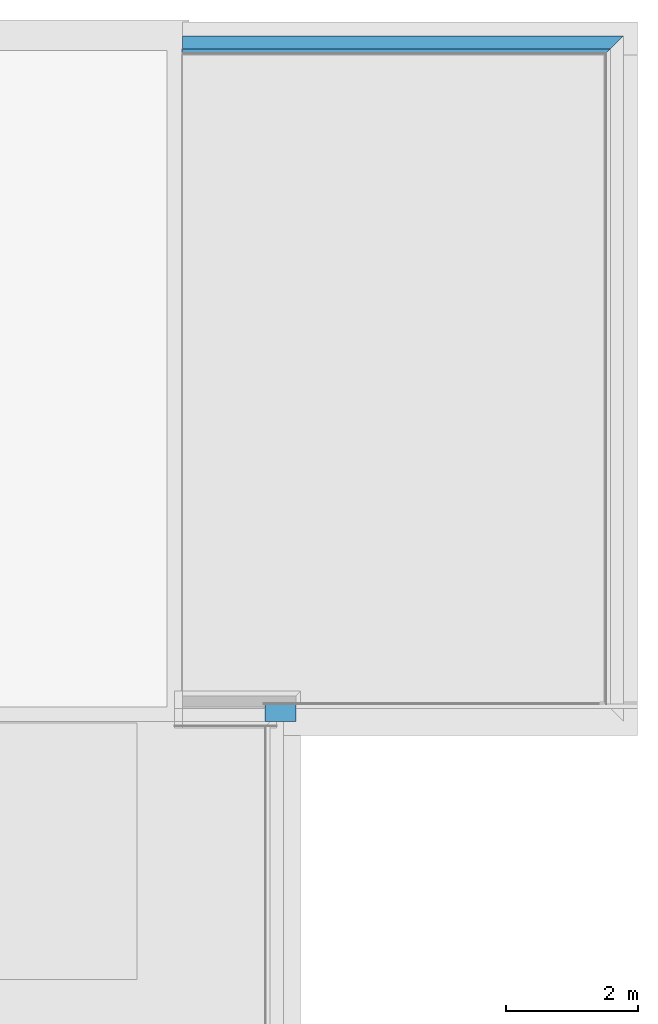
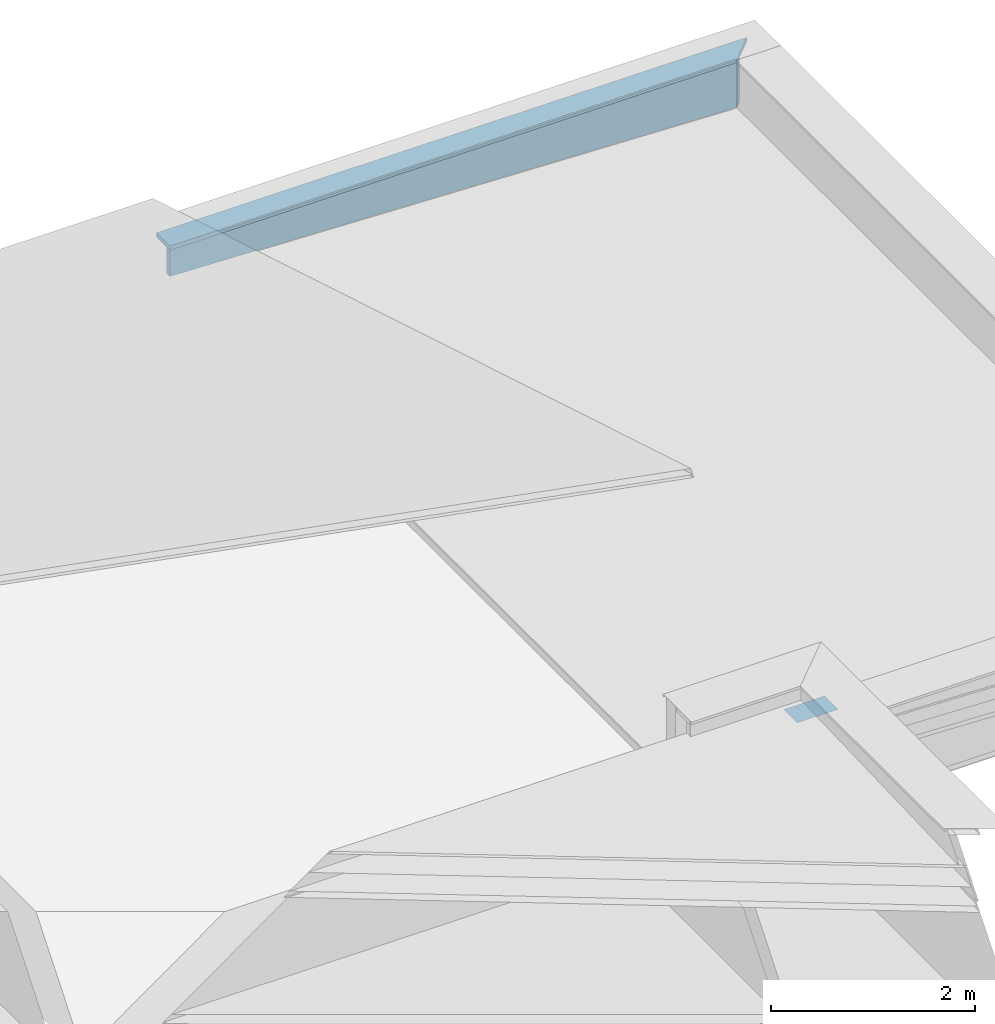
# One storey, part 13 of 13: 3 building element parts, 2 elements without a shape of their own.
"""IFC2X3 building model written with IfcOpenShell, lengths in metres."""

from ifc_helpers import new_model, entity, si_unit, converted_unit, derived_unit, money_unit, direction, frame, origin_with_axes, place, context, subcontext, project, spatial, polyline, outline, extrude, boolean, faceted_brep, material, type_object, element, aggregate, save


model = new_model("IFC2X3")

# Units and contexts
model_context = context("Model", 3, precision=1e-05, world=origin_with_axes(), true_north=direction((0.0, 1.0)))
body_context = subcontext(model_context, "Body", "Model", "MODEL_VIEW")
ifc_project = project(units=[si_unit("LENGTHUNIT", "METRE"), si_unit("AREAUNIT", "SQUARE_METRE"), si_unit("VOLUMEUNIT", "CUBIC_METRE"), converted_unit("PLANEANGLEUNIT", "DEGREE", entity("IfcPlaneAngleMeasure", 0.0174532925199), si_unit("PLANEANGLEUNIT", "RADIAN"), dimensions=[0, 0, 0, 0, 0, 0, 0]), money_unit("CHF"), converted_unit("TIMEUNIT", "Year", entity("IfcTimeMeasure", 31556926.0), si_unit("TIMEUNIT", "SECOND"), dimensions=[0, 0, 1, 0, 0, 0, 0]), si_unit("MASSUNIT", "GRAM", prefix="KILO"), si_unit("THERMODYNAMICTEMPERATUREUNIT", "DEGREE_CELSIUS"), si_unit("LUMINOUSINTENSITYUNIT", "LUMEN"), si_unit("ENERGYUNIT", "JOULE", prefix="MEGA"), derived_unit("THERMALCONDUCTANCEUNIT", [(si_unit("POWERUNIT", "WATT"), 1), (si_unit("LENGTHUNIT", "METRE"), -1), (si_unit("THERMODYNAMICTEMPERATUREUNIT", "KELVIN"), -1)]), derived_unit("SPECIFICHEATCAPACITYUNIT", [(si_unit("ENERGYUNIT", "JOULE"), 1), (si_unit("MASSUNIT", "GRAM", prefix="KILO"), -1), (si_unit("THERMODYNAMICTEMPERATUREUNIT", "KELVIN"), -1)]), derived_unit("MASSDENSITYUNIT", [(si_unit("MASSUNIT", "GRAM", prefix="KILO"), 1), (si_unit("VOLUMEUNIT", "CUBIC_METRE"), -1)])], contexts=[model_context])

# Site, building, storey
site_placement = place(None, origin_with_axes())
site = spatial("IfcSite", under=ifc_project, at=site_placement, Name="Site", CompositionType="ELEMENT")
building_placement = place(site_placement, origin_with_axes())
building = spatial("IfcBuilding", under=site, at=building_placement, Name="Bâtiment", CompositionType="ELEMENT")
storey_placement = place(building_placement, frame((0.0, 0.0, 3.0), z_axis=(0.0, 0.0, 1.0), x_axis=(1.0, 0.0, 0.0)))
storey = spatial("IfcBuildingStorey", under=building, at=storey_placement, Name="Toitures", CompositionType="ELEMENT", Elevation=3.0)

# Beam, building element parts
beam_type = type_object("IfcBeamType", Name="couvertine mur iso 505 x 590", PredefinedType="BEAM")
beam_1_placement = place(storey_placement, frame((32.3194697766, 25.2201256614, 0.97), z_axis=(0.0, 0.0, 1.0), x_axis=(0.0, -1.0, 0.0)))
beam_1 = element("IfcBeam", 1, at=beam_1_placement, inside=storey, type_object=beam_type, Name="POUTRE-001", ObjectType="BEAM")
ifc_material = material(Name="Isolation - Polyuréthane (extérieur)")
building_element_part_1_placement = place(beam_1_placement, origin_with_axes())
building_element_part_1 = element("IfcBuildingElementPart", 2, at=building_element_part_1_placement, material=ifc_material, Name="Isolation - Polyuréthane (extérieur)", context=body_context, shape_type="CSG", body=[
    boolean("DIFFERENCE", boolean("DIFFERENCE", boolean("DIFFERENCE", boolean("DIFFERENCE", boolean("DIFFERENCE", boolean("DIFFERENCE", extrude(outline(polyline([(0.0999999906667, -0.589639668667), (0.164999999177, -0.589639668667), (0.164999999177, -0.0549999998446), (0.0999999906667, -0.0549999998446), (0.0999999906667, -0.589639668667)])), frame((0.0, 6.91002, 0.0), z_axis=(0.0, -1.0, 0.0), x_axis=(1.0, 0.0, 0.0)), (0.0, 0.0, 1.0), 6.91002), faceted_brep([(0.164999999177, 0.0, -0.368167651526), (0.164999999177, 6.32777191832, -0.589639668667), (0.164999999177, 0.0, -0.589639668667), (0.174999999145, 6.32777191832, -0.589639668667), (0.174999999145, 0.0, -0.368167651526), (0.174999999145, 0.0, -0.589639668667)], [[[0, 1, 2]], [[3, 1, 0, 4]], [[1, 3, 5, 2]], [[4, 0, 2, 5]], [[3, 4, 5]]])), faceted_brep([(0.164999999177, 6.43500000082, -0.0549999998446), (0.164999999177, 6.43500000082, -0.005), (0.164999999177, 6.91002, -0.005), (0.164999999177, 6.91002, -0.0549999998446), (0.174999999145, 6.42500000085, -0.005), (0.164999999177, 6.43500000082, -0.589639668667), (0.174999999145, 6.42500000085, -0.589639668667), (0.174999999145, 6.91002, -0.005), (0.174999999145, 6.91002, -0.589639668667), (0.164999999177, 6.91002, -0.589639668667)], [[[0, 1, 2, 3]], [[4, 1, 0, 5, 6]], [[1, 4, 7, 2]], [[8, 9, 3, 2, 7]], [[5, 0, 3, 9]], [[6, 5, 9, 8]], [[4, 6, 8, 7]]])), faceted_brep([(-0.31, 6.91002, -0.03000000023), (-0.31, 6.91, -0.03000000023), (-0.31, 6.91, -1.56462309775e-09), (-0.31, 6.91002, -1.56462309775e-09), (-0.3049999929, 6.91002, -0.03000000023), (-0.3049999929, 6.9049999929, -0.03000000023), (0.194999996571, 6.40500000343, -0.03000000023), (0.194999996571, 6.40500000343, -1.56462309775e-09), (-0.3049999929, 6.9049999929, -0.0049999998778), (-0.1, 6.7, -0.005), (0.165, 6.435, -0.005), (0.175000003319, 6.42499999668, -0.0049999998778), (0.189999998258, 6.41000000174, -0.0049999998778), (0.189999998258, 6.41000000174, -0.03000000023), (0.194999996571, 6.91002, -1.56462309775e-09), (0.194999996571, 6.91002, -0.03000000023), (0.189999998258, 6.91002, -0.03000000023), (0.189999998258, 6.91002, -0.0049999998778), (0.175000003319, 6.91002, -0.0049999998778), (0.164999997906, 6.91002, -0.0049999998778), (-0.100000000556, 6.91002, -0.0049999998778), (-0.3049999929, 6.91002, -0.0049999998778)], [[[0, 1, 2, 3]], [[4, 5, 1, 0]], [[6, 7, 2, 1, 5, 8, 9, 10, 11, 12, 13]], [[3, 2, 7, 14]], [[0, 3, 14, 15, 16, 17, 18, 19, 20, 21, 4]], [[21, 8, 5, 4]], [[14, 7, 6, 15]], [[20, 9, 8, 21]], [[19, 10, 9, 20]], [[18, 11, 10, 19]], [[17, 12, 11, 18]], [[16, 13, 12, 17]], [[15, 6, 13, 16]]])), faceted_brep([(0.0999999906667, 0.0, -0.589639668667), (0.1, 0.0, -0.368167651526), (0.1, 6.32777191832, -0.589639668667), (0.164999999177, 0.0, -0.589639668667), (0.164999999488, 0.0, -0.368167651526), (0.164999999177, 6.32777191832, -0.589639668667)], [[[0, 1, 2]], [[3, 4, 1, 0]], [[4, 5, 2, 1]], [[0, 2, 5, 3]], [[3, 5, 4]]])), faceted_brep([(0.0999999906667, 6.91002, -0.589639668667), (0.0999999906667, 6.50000000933, -0.589639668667), (0.0999999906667, 6.50000000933, -0.0549999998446), (0.0999999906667, 6.91002, -0.0549999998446), (0.164999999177, 6.91002, -0.589639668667), (0.164999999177, 6.43500000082, -0.589639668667), (0.16499999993, 6.43500000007, -0.0549999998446), (0.164999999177, 6.91002, -0.0549999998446)], [[[0, 1, 2, 3]], [[4, 5, 1, 0]], [[5, 6, 2, 1]], [[3, 2, 6, 7]], [[7, 4, 0, 3]], [[7, 6, 5, 4]]])), faceted_brep([(-0.1, 6.91002, -0.055), (-0.1, 6.7, -0.055), (-0.1, 6.7, -0.005), (-0.1, 6.91002, -0.005), (0.0999999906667, 6.91002, -0.0549999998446), (0.0999999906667, 6.50000000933, -0.0549999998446), (0.165, 6.435, -0.005), (0.16499999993, 6.43500000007, -0.055), (0.165, 6.91002, -0.005), (0.165, 6.91002, -0.055)], [[[0, 1, 2, 3]], [[4, 5, 1, 0]], [[6, 2, 1, 5, 7]], [[3, 2, 6, 8]], [[4, 0, 3, 8, 9]], [[9, 7, 5, 4]], [[8, 6, 7, 9]]])),
])
building_element_part_2_placement = place(beam_1_placement, origin_with_axes())
building_element_part_2 = element("IfcBuildingElementPart", 3, at=building_element_part_2_placement, material=ifc_material, Name="Isolation - Polyuréthane (extérieur)", context=body_context, shape_type="CSG", body=[
    boolean("DIFFERENCE", boolean("DIFFERENCE", boolean("DIFFERENCE", boolean("DIFFERENCE", boolean("DIFFERENCE", boolean("DIFFERENCE", extrude(outline(polyline([(-0.1, -0.005), (-0.1, -0.055), (0.0999999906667, -0.0549999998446), (0.165, -0.055), (0.165, -0.005), (-0.1, -0.005)])), frame((0.0, 6.91002, 0.0), z_axis=(0.0, -1.0, 0.0), x_axis=(1.0, 0.0, 0.0)), (0.0, 0.0, 1.0), 6.91002), faceted_brep([(0.164999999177, 0.0, -0.368167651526), (0.164999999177, 6.32777191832, -0.589639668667), (0.164999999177, 0.0, -0.589639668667), (0.174999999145, 6.32777191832, -0.589639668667), (0.174999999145, 0.0, -0.368167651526), (0.174999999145, 0.0, -0.589639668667)], [[[0, 1, 2]], [[3, 1, 0, 4]], [[1, 3, 5, 2]], [[4, 0, 2, 5]], [[3, 4, 5]]])), faceted_brep([(0.164999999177, 6.43500000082, -0.0549999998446), (0.164999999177, 6.43500000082, -0.005), (0.164999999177, 6.91002, -0.005), (0.164999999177, 6.91002, -0.0549999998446), (0.174999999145, 6.42500000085, -0.005), (0.164999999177, 6.43500000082, -0.589639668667), (0.174999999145, 6.42500000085, -0.589639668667), (0.174999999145, 6.91002, -0.005), (0.174999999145, 6.91002, -0.589639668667), (0.164999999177, 6.91002, -0.589639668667)], [[[0, 1, 2, 3]], [[4, 1, 0, 5, 6]], [[1, 4, 7, 2]], [[8, 9, 3, 2, 7]], [[5, 0, 3, 9]], [[6, 5, 9, 8]], [[4, 6, 8, 7]]])), faceted_brep([(-0.31, 6.91002, -0.03000000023), (-0.31, 6.91, -0.03000000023), (-0.31, 6.91, -1.56462309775e-09), (-0.31, 6.91002, -1.56462309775e-09), (-0.3049999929, 6.91002, -0.03000000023), (-0.3049999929, 6.9049999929, -0.03000000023), (0.194999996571, 6.40500000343, -0.03000000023), (0.194999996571, 6.40500000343, -1.56462309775e-09), (-0.3049999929, 6.9049999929, -0.0049999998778), (-0.1, 6.7, -0.005), (0.165, 6.435, -0.005), (0.175000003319, 6.42499999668, -0.0049999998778), (0.189999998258, 6.41000000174, -0.0049999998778), (0.189999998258, 6.41000000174, -0.03000000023), (0.194999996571, 6.91002, -1.56462309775e-09), (0.194999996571, 6.91002, -0.03000000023), (0.189999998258, 6.91002, -0.03000000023), (0.189999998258, 6.91002, -0.0049999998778), (0.175000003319, 6.91002, -0.0049999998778), (0.164999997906, 6.91002, -0.0049999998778), (-0.100000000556, 6.91002, -0.0049999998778), (-0.3049999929, 6.91002, -0.0049999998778)], [[[0, 1, 2, 3]], [[4, 5, 1, 0]], [[6, 7, 2, 1, 5, 8, 9, 10, 11, 12, 13]], [[3, 2, 7, 14]], [[0, 3, 14, 15, 16, 17, 18, 19, 20, 21, 4]], [[21, 8, 5, 4]], [[14, 7, 6, 15]], [[20, 9, 8, 21]], [[19, 10, 9, 20]], [[18, 11, 10, 19]], [[17, 12, 11, 18]], [[16, 13, 12, 17]], [[15, 6, 13, 16]]])), faceted_brep([(0.0999999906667, 0.0, -0.589639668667), (0.1, 0.0, -0.368167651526), (0.1, 6.32777191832, -0.589639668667), (0.164999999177, 0.0, -0.589639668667), (0.164999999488, 0.0, -0.368167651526), (0.164999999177, 6.32777191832, -0.589639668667)], [[[0, 1, 2]], [[3, 4, 1, 0]], [[4, 5, 2, 1]], [[0, 2, 5, 3]], [[3, 5, 4]]])), faceted_brep([(0.0999999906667, 6.91002, -0.589639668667), (0.0999999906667, 6.50000000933, -0.589639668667), (0.0999999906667, 6.50000000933, -0.0549999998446), (0.0999999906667, 6.91002, -0.0549999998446), (0.164999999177, 6.91002, -0.589639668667), (0.164999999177, 6.43500000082, -0.589639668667), (0.16499999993, 6.43500000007, -0.0549999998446), (0.164999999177, 6.91002, -0.0549999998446)], [[[0, 1, 2, 3]], [[4, 5, 1, 0]], [[5, 6, 2, 1]], [[3, 2, 6, 7]], [[7, 4, 0, 3]], [[7, 6, 5, 4]]])), faceted_brep([(-0.1, 6.91002, -0.055), (-0.1, 6.7, -0.055), (-0.1, 6.7, -0.005), (-0.1, 6.91002, -0.005), (0.0999999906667, 6.91002, -0.0549999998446), (0.0999999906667, 6.50000000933, -0.0549999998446), (0.165, 6.435, -0.005), (0.16499999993, 6.43500000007, -0.055), (0.165, 6.91002, -0.005), (0.165, 6.91002, -0.055)], [[[0, 1, 2, 3]], [[4, 5, 1, 0]], [[6, 2, 1, 5, 7]], [[3, 2, 6, 8]], [[4, 0, 3, 8, 9]], [[9, 7, 5, 4]], [[8, 6, 7, 9]]])),
])
aggregate(beam_1, [building_element_part_1, building_element_part_2])

# Beam, building element part
beam_2_placement = place(storey_placement, frame((38.9194697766, 15.0031256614, 0.97), z_axis=(0.0, 0.0, 1.0), x_axis=(0.0, 1.0, 0.0)))
beam_2 = element("IfcBeam", 4, at=beam_2_placement, inside=storey, type_object=beam_type, Name="POUTRE-003", ObjectType="BEAM")
building_element_part_3_placement = place(beam_2_placement, origin_with_axes())
building_element_part_3 = element("IfcBuildingElementPart", 5, at=building_element_part_3_placement, material=ifc_material, Name="Isolation - Polyuréthane (extérieur)", context=body_context, shape_type="CSG", body=[
    boolean("DIFFERENCE", boolean("DIFFERENCE", boolean("DIFFERENCE", boolean("DIFFERENCE", boolean("DIFFERENCE", boolean("DIFFERENCE", boolean("DIFFERENCE", boolean("DIFFERENCE", extrude(outline(polyline([(-0.1, -0.005), (-0.1, -0.055), (0.0999999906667, -0.0549999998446), (0.165, -0.055), (0.165, -0.005), (-0.1, -0.005)])), frame((0.0, 5.36502, 0.0), z_axis=(0.0, -1.0, 0.0), x_axis=(1.0, 0.0, 0.0)), (0.0, 0.0, 1.0), 5.67504), faceted_brep([(0.174999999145, 5.365, -0.0896396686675), (0.174999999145, 5.365, -0.411392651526), (0.174999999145, 0.272228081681, -0.589639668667), (0.174999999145, 5.36502, -0.589639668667), (0.174999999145, 5.36502, -0.005), (0.174999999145, 5.34499999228, -0.005), (0.174999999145, 5.34499999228, -0.0896396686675), (0.164999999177, 5.365, -0.0896396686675), (0.164999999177, 5.365, -0.411392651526), (0.164999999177, 0.272228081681, -0.589639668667), (0.164999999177, 5.36502, -0.589639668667), (0.164999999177, 5.36502, -0.0549999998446), (0.164999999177, 5.36502, -0.005), (0.164999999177, 5.34499999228, -0.005), (0.164999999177, 5.34499999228, -0.0549999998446), (0.164999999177, 5.34499999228, -0.0896396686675)], [[[0, 1, 2, 3, 4, 5, 6]], [[1, 0, 7, 8]], [[9, 2, 1, 8]], [[2, 9, 10, 3]], [[3, 10, 11, 12, 4]], [[13, 5, 4, 12]], [[6, 5, 13, 14, 15]], [[0, 6, 15, 7]], [[15, 14, 11, 10, 9, 8, 7]], [[14, 13, 12, 11]]])), faceted_brep([(0.174999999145, 0.174999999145, -0.005), (0.164999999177, 0.164999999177, -0.005), (0.164999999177, -0.31002, -0.005), (0.174999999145, -0.31002, -0.005), (0.164999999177, 0.164999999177, -0.0549999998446), (0.174999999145, 0.174999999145, -0.589639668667), (0.164999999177, 0.164999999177, -0.589639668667), (0.164999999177, -0.31002, -0.0549999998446), (0.164999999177, -0.31002, -0.589639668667), (0.174999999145, -0.31002, -0.589639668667)], [[[0, 1, 2, 3]], [[4, 1, 0, 5, 6]], [[1, 4, 7, 2]], [[3, 2, 7, 8, 9]], [[5, 0, 3, 9]], [[6, 5, 9, 8]], [[4, 6, 8, 7]]])), faceted_brep([(0.116874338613, 5.34499999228, -1.56462309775e-09), (0.116999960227, 5.34499999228, -1.56462309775e-09), (0.116999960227, 4.88, -1.56462309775e-09), (0.194999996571, 4.88, -1.56462309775e-09), (0.194999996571, 5.36502, -1.56462309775e-09), (-0.31, 5.36502, -1.56462309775e-09), (-0.31, 4.88, -1.56462309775e-09), (0.116874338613, 4.88, -1.56462309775e-09), (0.116874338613, 5.07, -1.56462309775e-09), (0.116999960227, 5.34499999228, -0.005), (0.116874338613, 5.34499999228, -0.005), (0.116999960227, 4.88, -0.00499999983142), (0.189999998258, 4.88, -0.03000000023), (0.194999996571, 4.88, -0.03000000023), (0.165, 4.88, -0.005), (0.175000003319, 4.88, -0.0049999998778), (0.189999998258, 4.88, -0.0049999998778), (0.194999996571, 5.36502, -0.03000000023), (-0.31, 5.36502, -0.03000000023), (0.189999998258, 5.36502, -0.03000000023), (0.189999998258, 5.36502, -0.0049999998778), (0.175000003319, 5.36502, -0.0049999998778), (0.164999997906, 5.36502, -0.0049999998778), (-0.100000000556, 5.36502, -0.0049999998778), (-0.3049999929, 5.36502, -0.0049999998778), (-0.3049999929, 5.36502, -0.03000000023), (-0.31, 4.88, -0.03000000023), (0.116874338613, 4.88, -0.00499999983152), (-0.3049999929, 4.88, -0.03000000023), (-0.3049999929, 4.88, -0.0049999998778), (-0.1, 4.88, -0.005), (0.116874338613, 5.07, -0.00499999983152)], [[[0, 1, 2, 3, 4, 5, 6, 7, 8]], [[9, 1, 0, 10]], [[11, 2, 1, 9]], [[12, 13, 3, 2, 11, 14, 15, 16]], [[4, 3, 13, 17]], [[18, 5, 4, 17, 19, 20, 21, 22, 23, 24, 25]], [[18, 26, 6, 5]], [[27, 7, 6, 26, 28, 29, 30]], [[31, 8, 7, 27]], [[10, 0, 8, 31]], [[31, 27, 30, 23, 22, 14, 11, 9, 10]], [[17, 13, 12, 19]], [[21, 15, 14, 22]], [[20, 16, 15, 21]], [[19, 12, 16, 20]], [[23, 30, 29, 24]], [[24, 29, 28, 25]], [[25, 28, 26, 18]]])), faceted_brep([(0.194999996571, -0.31002, -1.56462309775e-09), (0.194999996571, 0.194999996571, -1.56462309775e-09), (-0.31, -0.31, -1.56462309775e-09), (-0.31, -0.31002, -1.56462309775e-09), (0.194999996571, -0.31002, -0.03000000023), (0.194999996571, 0.194999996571, -0.03000000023), (-0.3049999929, -0.3049999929, -0.03000000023), (-0.31, -0.31, -0.03000000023), (0.189999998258, 0.189999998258, -0.03000000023), (0.189999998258, 0.189999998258, -0.0049999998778), (0.175000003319, 0.175000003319, -0.0049999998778), (0.165, 0.165, -0.005), (-0.1, -0.1, -0.005), (-0.3049999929, -0.3049999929, -0.0049999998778), (-0.31, -0.31002, -0.03000000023), (0.189999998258, -0.31002, -0.03000000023), (-0.3049999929, -0.31002, -0.03000000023), (-0.3049999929, -0.31002, -0.0049999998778), (-0.100000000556, -0.31002, -0.0049999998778), (0.164999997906, -0.31002, -0.0049999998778), (0.175000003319, -0.31002, -0.0049999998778), (0.189999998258, -0.31002, -0.0049999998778)], [[[0, 1, 2, 3]], [[4, 5, 1, 0]], [[6, 7, 2, 1, 5, 8, 9, 10, 11, 12, 13]], [[3, 2, 7, 14]], [[15, 4, 0, 3, 14, 16, 17, 18, 19, 20, 21]], [[15, 8, 5, 4]], [[14, 7, 6, 16]], [[21, 9, 8, 15]], [[20, 10, 9, 21]], [[19, 11, 10, 20]], [[18, 12, 11, 19]], [[17, 13, 12, 18]], [[16, 6, 13, 17]]])), faceted_brep([(0.164999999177, 5.34499999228, -0.0896396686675), (0.164999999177, 5.365, -0.0896396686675), (0.164999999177, 5.365, -0.411392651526), (0.164999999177, 0.272228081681, -0.589639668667), (0.164999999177, 5.36502, -0.589639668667), (0.164999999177, 5.36502, -0.0549999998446), (0.164999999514, 5.34499999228, -0.0549999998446), (0.0999999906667, 5.365, -0.0896396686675), (0.0999999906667, 5.34499999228, -0.0896396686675), (0.0999999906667, 5.365, -0.411392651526), (0.0999999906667, 0.272228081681, -0.589639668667), (0.0999999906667, 5.36502, -0.589639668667), (0.0999999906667, 5.36502, -0.0549999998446), (0.0999999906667, 5.34499999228, -0.0549999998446)], [[[0, 1, 2, 3, 4, 5, 6]], [[7, 1, 0, 8]], [[9, 2, 1, 7]], [[9, 10, 3, 2]], [[4, 3, 10, 11]], [[5, 4, 11, 12]], [[12, 13, 6, 5]], [[8, 0, 6, 13]], [[7, 8, 13, 12, 11, 10, 9]]])), faceted_brep([(0.164999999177, -0.31002, -0.0549999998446), (0.16499999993, 0.16499999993, -0.0549999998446), (0.0999999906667, 0.0999999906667, -0.0549999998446), (0.0999999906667, -0.31002, -0.0549999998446), (0.164999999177, -0.31002, -0.589639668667), (0.164999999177, 0.164999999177, -0.589639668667), (0.0999999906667, 0.0999999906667, -0.589639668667), (0.0999999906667, -0.31002, -0.589639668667)], [[[0, 1, 2, 3]], [[4, 5, 1, 0]], [[5, 6, 2, 1]], [[3, 2, 6, 7]], [[0, 3, 7, 4]], [[7, 6, 5, 4]]])), faceted_brep([(-0.1, 5.36502, -0.005), (-0.1, 5.34499999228, -0.005), (0.165, 5.34499999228, -0.005), (0.165, 5.36502, -0.005), (-0.1, 5.36502, -0.055), (-0.1, 5.34499999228, -0.055), (0.0999999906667, 5.34499999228, -0.0549999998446), (0.164999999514, 5.34499999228, -0.055), (0.165, 5.36502, -0.055), (0.0999999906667, 5.36502, -0.0549999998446)], [[[0, 1, 2, 3]], [[4, 5, 1, 0]], [[6, 7, 2, 1, 5]], [[3, 2, 7, 8]], [[9, 4, 0, 3, 8]], [[9, 6, 5, 4]], [[8, 7, 6, 9]]])), faceted_brep([(0.165, -0.31002, -0.005), (0.165, 0.165, -0.005), (-0.1, -0.1, -0.005), (-0.1, -0.31002, -0.005), (0.165, -0.31002, -0.055), (0.16499999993, 0.16499999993, -0.055), (0.0999999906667, 0.0999999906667, -0.0549999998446), (-0.1, -0.1, -0.055), (-0.1, -0.31002, -0.055), (0.0999999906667, -0.31002, -0.0549999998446)], [[[0, 1, 2, 3]], [[4, 5, 1, 0]], [[6, 7, 2, 1, 5]], [[3, 2, 7, 8]], [[4, 0, 3, 8, 9]], [[9, 6, 5, 4]], [[8, 7, 6, 9]]])),
])
aggregate(beam_2, [building_element_part_3])

save(model, "model.ifc")
